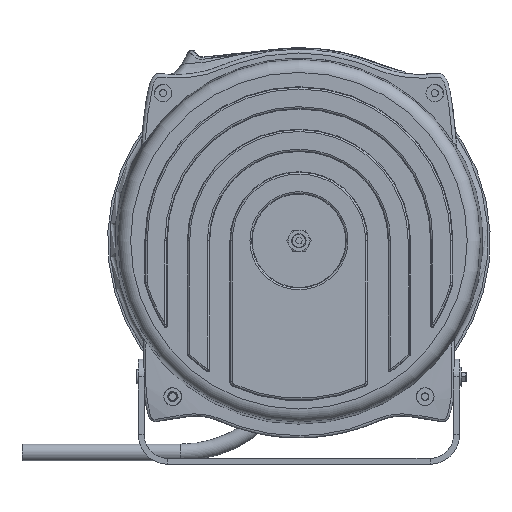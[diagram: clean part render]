
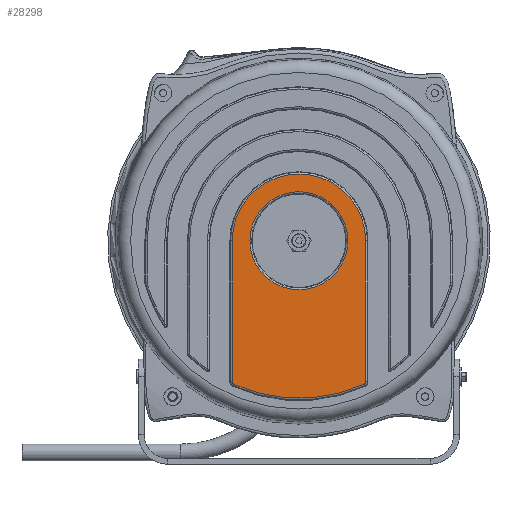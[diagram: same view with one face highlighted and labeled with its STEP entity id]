
A CAD part, left-side view. The second image highlights one B-rep face of the part: STEP entity #28298.
In plain terms, the highlighted planar face has unit normal (-1, 0, 0).
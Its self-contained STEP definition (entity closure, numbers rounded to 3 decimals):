
#617 = EDGE_CURVE ( 'NONE', #19727, #1941, #31788, .T. ) ;
#821 = VERTEX_POINT ( 'NONE', #14374 ) ;
#1512 = VERTEX_POINT ( 'NONE', #11139 ) ;
#1941 = VERTEX_POINT ( 'NONE', #12716 ) ;
#2342 = VERTEX_POINT ( 'NONE', #26685 ) ;
#2364 = CARTESIAN_POINT ( 'NONE',  ( -60., -56.5, 0. ) ) ;
#2597 = LINE ( 'NONE', #5270, #3487 ) ;
#3108 = EDGE_CURVE ( 'NONE', #21559, #2342, #2597, .T. ) ;
#3362 = AXIS2_PLACEMENT_3D ( 'NONE', #18936, #36195, #4133 ) ;
#3487 = VECTOR ( 'NONE', #11411, 1000. ) ;
#4133 = DIRECTION ( 'NONE',  ( 0., 0., 1. ) ) ;
#5075 = CARTESIAN_POINT ( 'NONE',  ( -60., 54., -119.352 ) ) ;
#5270 = CARTESIAN_POINT ( 'NONE',  ( -60., 56.5, -119.352 ) ) ;
#5645 = DIRECTION ( 'NONE',  ( -1., 0., 0. ) ) ;
#6917 = EDGE_LOOP ( 'NONE', ( #13629, #29513, #21698, #26945, #7825, #10698 ) ) ;
#7816 = ORIENTED_EDGE ( 'NONE', *, *, #26479, .T. ) ;
#7825 = ORIENTED_EDGE ( 'NONE', *, *, #3108, .T. ) ;
#8208 = AXIS2_PLACEMENT_3D ( 'NONE', #12893, #16291, #27501 ) ;
#8717 = CARTESIAN_POINT ( 'NONE',  ( -60., 0., 0. ) ) ;
#9386 = EDGE_CURVE ( 'NONE', #2342, #1512, #36620, .T. ) ;
#9909 = VERTEX_POINT ( 'NONE', #15870 ) ;
#10698 = ORIENTED_EDGE ( 'NONE', *, *, #9386, .T. ) ;
#11139 = CARTESIAN_POINT ( 'NONE',  ( -60., 55.031, -121.63 ) ) ;
#11239 = DIRECTION ( 'NONE',  ( 0., 0., 1. ) ) ;
#11411 = DIRECTION ( 'NONE',  ( 0., 0., -1. ) ) ;
#11800 = CIRCLE ( 'NONE', #30532, 2.5 ) ;
#12716 = CARTESIAN_POINT ( 'NONE',  ( -60., -56.5, 0. ) ) ;
#12893 = CARTESIAN_POINT ( 'NONE',  ( -60., 0., 0. ) ) ;
#13629 = ORIENTED_EDGE ( 'NONE', *, *, #25459, .T. ) ;
#13891 = EDGE_CURVE ( 'NONE', #1941, #21559, #28885, .T. ) ;
#14374 = CARTESIAN_POINT ( 'NONE',  ( -60., -55.031, -121.63 ) ) ;
#14735 = DIRECTION ( 'NONE',  ( -1., 0., 0. ) ) ;
#15870 = CARTESIAN_POINT ( 'NONE',  ( -60., 0., 41.5 ) ) ;
#16291 = DIRECTION ( 'NONE',  ( -1., 0., 0. ) ) ;
#18936 = CARTESIAN_POINT ( 'NONE',  ( -60., 0., 0. ) ) ;
#19727 = VERTEX_POINT ( 'NONE', #20149 ) ;
#20149 = CARTESIAN_POINT ( 'NONE',  ( -60., -56.5, -119.352 ) ) ;
#20333 = DIRECTION ( 'NONE',  ( 0., 0., 1. ) ) ;
#20451 = AXIS2_PLACEMENT_3D ( 'NONE', #37138, #34483, #11239 ) ;
#20613 = CIRCLE ( 'NONE', #20451, 41.5 ) ;
#21559 = VERTEX_POINT ( 'NONE', #28944 ) ;
#21698 = ORIENTED_EDGE ( 'NONE', *, *, #617, .T. ) ;
#22902 = DIRECTION ( 'NONE',  ( 0., 0., 1. ) ) ;
#23221 = AXIS2_PLACEMENT_3D ( 'NONE', #5075, #31555, #22902 ) ;
#24209 = FACE_BOUND ( 'NONE', #26180, .T. ) ;
#24752 = PLANE ( 'NONE',  #3362 ) ;
#25459 = EDGE_CURVE ( 'NONE', #1512, #821, #31978, .T. ) ;
#25509 = CARTESIAN_POINT ( 'NONE',  ( -60., -54., -119.352 ) ) ;
#26180 = EDGE_LOOP ( 'NONE', ( #7816 ) ) ;
#26479 = EDGE_CURVE ( 'NONE', #9909, #9909, #20613, .T. ) ;
#26685 = CARTESIAN_POINT ( 'NONE',  ( -60., 56.5, -119.352 ) ) ;
#26945 = ORIENTED_EDGE ( 'NONE', *, *, #13891, .T. ) ;
#27501 = DIRECTION ( 'NONE',  ( 0., 0., 1. ) ) ;
#28298 = ADVANCED_FACE ( 'NONE', ( #31013, #24209 ), #24752, .T. ) ;
#28885 = CIRCLE ( 'NONE', #30360, 56.5 ) ;
#28944 = CARTESIAN_POINT ( 'NONE',  ( -60., 56.5, 0. ) ) ;
#29513 = ORIENTED_EDGE ( 'NONE', *, *, #36366, .T. ) ;
#30360 = AXIS2_PLACEMENT_3D ( 'NONE', #8717, #14735, #35053 ) ;
#30532 = AXIS2_PLACEMENT_3D ( 'NONE', #25509, #5645, #31746 ) ;
#31013 = FACE_OUTER_BOUND ( 'NONE', #6917, .T. ) ;
#31309 = VECTOR ( 'NONE', #20333, 1000. ) ;
#31555 = DIRECTION ( 'NONE',  ( -1., 0., 0. ) ) ;
#31746 = DIRECTION ( 'NONE',  ( 0., 0., 1. ) ) ;
#31788 = LINE ( 'NONE', #2364, #31309 ) ;
#31978 = CIRCLE ( 'NONE', #8208, 133.5 ) ;
#34483 = DIRECTION ( 'NONE',  ( 1., 0., 0. ) ) ;
#35053 = DIRECTION ( 'NONE',  ( 0., 0., 1. ) ) ;
#36195 = DIRECTION ( 'NONE',  ( -1., 0., 0. ) ) ;
#36366 = EDGE_CURVE ( 'NONE', #821, #19727, #11800, .T. ) ;
#36620 = CIRCLE ( 'NONE', #23221, 2.5 ) ;
#37138 = CARTESIAN_POINT ( 'NONE',  ( -60., 0., 0. ) ) ;
